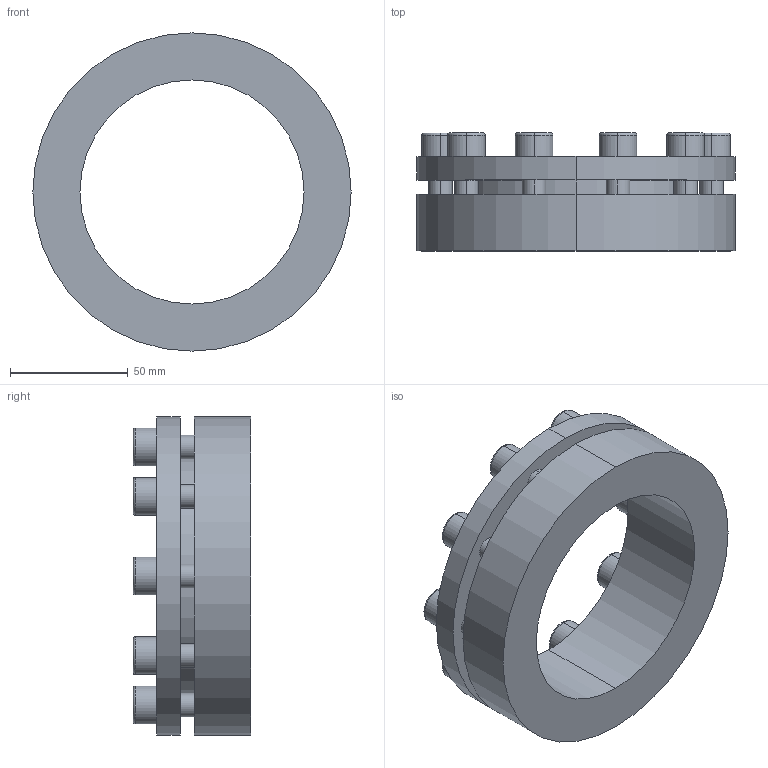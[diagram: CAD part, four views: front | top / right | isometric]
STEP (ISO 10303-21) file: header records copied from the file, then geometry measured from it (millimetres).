
FILE_DESCRIPTION (( 'STEP AP203' ), '1' );
FILE_NAME ('PL-H3 95-135.STEP', '2021-10-23T01:09:40', ( '' ), ( '' ), 'SwSTEP 2.0', 'SolidWorks 2018', '' );
FILE_SCHEMA (( 'CONFIG_CONTROL_DESIGN' ));
Length unit declared in the file: millimetre
Products named in the file (1): PL-H3 95-135
Bounding box: 135 x 50 x 135 mm (x, y, z)
Volume: 275079.4 mm3; surface area: 61220.1 mm2
Topology: 1 solids, 1 shells, 152 faces, 364 edges, 236 vertices
Faces by surface type: plane 84, cylinder 48, torus 20
Entity records: 4545 total; most frequent: DIRECTION 806, CARTESIAN_POINT 753, ORIENTED_EDGE 728, EDGE_CURVE 364, AXIS2_PLACEMENT_3D 289, VERTEX_POINT 236, VECTOR 228, LINE 228
